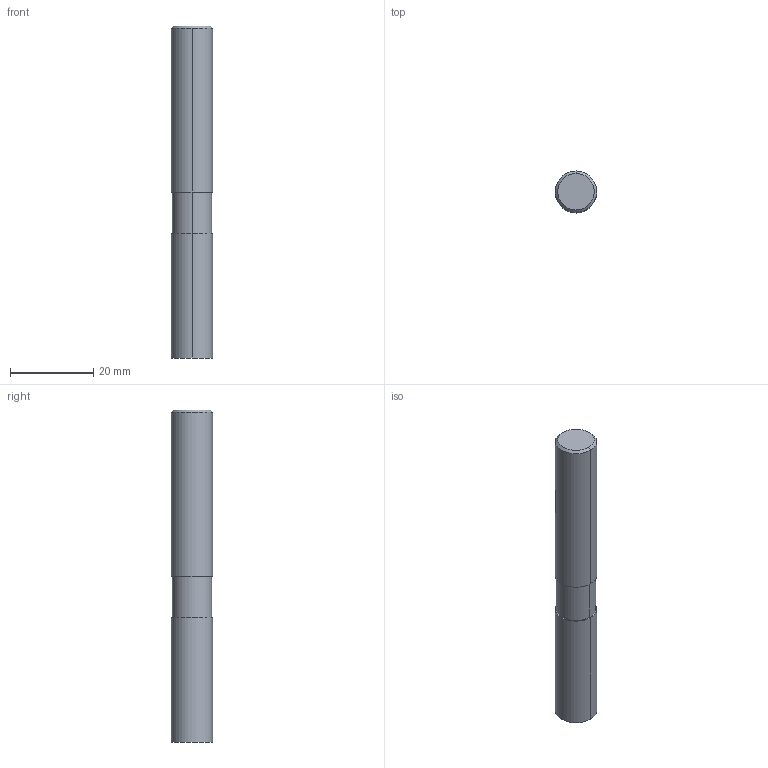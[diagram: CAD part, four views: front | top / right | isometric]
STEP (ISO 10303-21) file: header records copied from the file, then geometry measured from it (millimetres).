
FILE_DESCRIPTION((''),'2;1');
FILE_NAME('DIN4003_82_HEURO','2016-04-11T',('automc'),(''),'PRO/ENGINEER BY PARAMETRIC TECHNOLOGY CORPORATION, 2015280','PRO/ENGINEER BY PARAMETRIC TECHNOLOGY CORPORATION, 2015280','');
FILE_SCHEMA(('AUTOMOTIVE_DESIGN { 1 0 10303 214 1 1 1 1 }'));
Length unit declared in the file: millimetre
Products named in the file (1): DIN4003_82_HEURO
Bounding box: 10 x 10 x 80 mm (x, y, z)
Volume: 6201.2 mm3; surface area: 2658.5 mm2
Topology: 1 solids, 1 shells, 12 faces, 24 edges, 17 vertices
Faces by surface type: bspline 12
Entity records: 704 total; most frequent: CARTESIAN_POINT 219, DIRECTION 68, ORIENTED_EDGE 44, AXIS2_PLACEMENT_3D 26, PRESENTATION_STYLE_ASSIGNMENT 23, STYLED_ITEM 23, EDGE_CURVE 22, VECTOR 16
